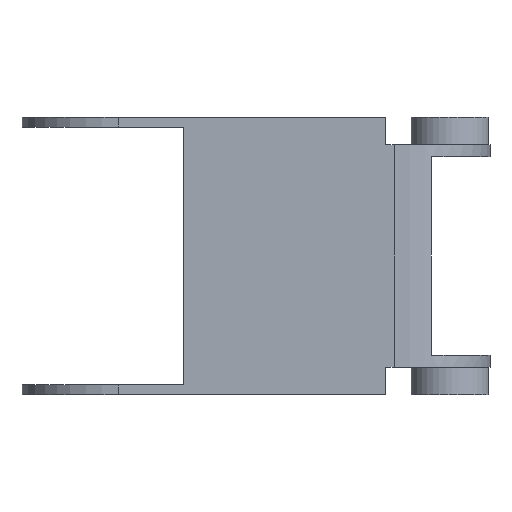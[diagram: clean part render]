
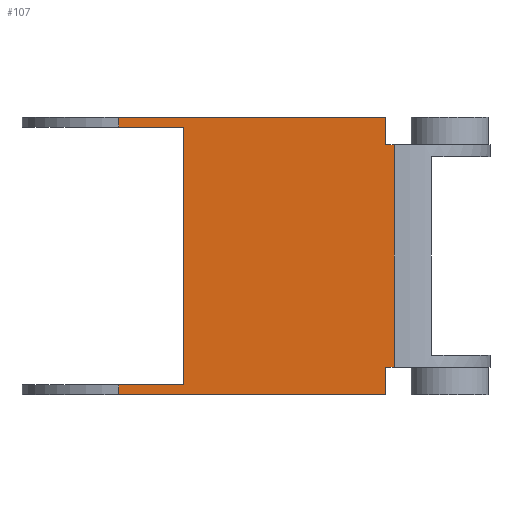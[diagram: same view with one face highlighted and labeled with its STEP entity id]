
A CAD part, front view. The second image highlights one B-rep face of the part: STEP entity #107.
In plain terms, the highlighted planar face has unit normal (0, -1, 0).
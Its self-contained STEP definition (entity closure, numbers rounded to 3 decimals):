
#107=ADVANCED_FACE('',(#511),#513,.T.);
#511=FACE_BOUND('',#512,.T.);
#512=EDGE_LOOP('',(#830,#831,#832,#833,#834,#835,#836,#837,#838,#839,#840,#841));
#513=PLANE('',#514);
#514=AXIS2_PLACEMENT_3D('',#515,#516,#517);
#515=CARTESIAN_POINT('',(0.,-9.753,-14.));
#516=DIRECTION('',(0.,-1.,0.));
#517=DIRECTION('',(1.,0.,0.));
#830=ORIENTED_EDGE('',*,*,#1097,.T.);
#831=ORIENTED_EDGE('',*,*,#1098,.T.);
#832=ORIENTED_EDGE('',*,*,#1099,.T.);
#833=ORIENTED_EDGE('',*,*,#1100,.T.);
#834=ORIENTED_EDGE('',*,*,#1101,.F.);
#835=ORIENTED_EDGE('',*,*,#1102,.F.);
#836=ORIENTED_EDGE('',*,*,#1103,.T.);
#837=ORIENTED_EDGE('',*,*,#1104,.T.);
#838=ORIENTED_EDGE('',*,*,#1105,.T.);
#839=ORIENTED_EDGE('',*,*,#1106,.F.);
#840=ORIENTED_EDGE('',*,*,#1092,.T.);
#841=ORIENTED_EDGE('',*,*,#1107,.T.);
#1092=EDGE_CURVE('',#1244,#1242,#1245,.T.);
#1097=EDGE_CURVE('',#1253,#1254,#1255,.F.);
#1098=EDGE_CURVE('',#1254,#1256,#1257,.T.);
#1099=EDGE_CURVE('',#1256,#1258,#1259,.T.);
#1100=EDGE_CURVE('',#1258,#1260,#1261,.T.);
#1101=EDGE_CURVE('',#1262,#1260,#1263,.T.);
#1102=EDGE_CURVE('',#1264,#1262,#1265,.T.);
#1103=EDGE_CURVE('',#1264,#1266,#1267,.T.);
#1104=EDGE_CURVE('',#1266,#1268,#1269,.T.);
#1105=EDGE_CURVE('',#1268,#1270,#1271,.F.);
#1106=EDGE_CURVE('',#1244,#1270,#1272,.T.);
#1107=EDGE_CURVE('',#1242,#1253,#1273,.F.);
#1242=VERTEX_POINT('',#1512);
#1244=VERTEX_POINT('',#1517);
#1245=LINE('',#1518,#1519);
#1253=VERTEX_POINT('',#1538);
#1254=VERTEX_POINT('',#1539);
#1255=LINE('',#1540,#1541);
#1256=VERTEX_POINT('',#1543);
#1257=LINE('',#1544,#1545);
#1258=VERTEX_POINT('',#1547);
#1259=LINE('',#1548,#1549);
#1260=VERTEX_POINT('',#1551);
#1261=LINE('',#1552,#1553);
#1262=VERTEX_POINT('',#1555);
#1263=LINE('',#1556,#1557);
#1264=VERTEX_POINT('',#1559);
#1265=LINE('',#1560,#1561);
#1266=VERTEX_POINT('',#1563);
#1267=LINE('',#1564,#1565);
#1268=VERTEX_POINT('',#1567);
#1269=LINE('',#1568,#1569);
#1270=VERTEX_POINT('',#1571);
#1271=LINE('',#1572,#1573);
#1272=LINE('',#1575,#1576);
#1273=LINE('',#1578,#1579);
#1512=CARTESIAN_POINT('',(26.946,-9.753,-14.));
#1517=CARTESIAN_POINT('',(0.,-9.753,-14.));
#1518=CARTESIAN_POINT('',(0.,-9.753,-14.));
#1519=VECTOR('',#1520,1.);
#1520=DIRECTION('',(1.,0.,0.));
#1538=CARTESIAN_POINT('',(26.946,-9.753,-11.25));
#1539=CARTESIAN_POINT('',(27.805,-9.753,-11.25));
#1540=CARTESIAN_POINT('',(27.805,-9.753,-11.25));
#1541=VECTOR('',#1542,1.);
#1542=DIRECTION('',(-1.,0.,0.));
#1543=CARTESIAN_POINT('',(27.805,-9.753,11.25));
#1544=CARTESIAN_POINT('',(27.805,-9.753,-11.25));
#1545=VECTOR('',#1546,1.);
#1546=DIRECTION('',(0.,0.,1.));
#1547=CARTESIAN_POINT('',(26.946,-9.753,11.25));
#1548=CARTESIAN_POINT('',(27.805,-9.753,11.25));
#1549=VECTOR('',#1550,1.);
#1550=DIRECTION('',(-1.,0.,0.));
#1551=CARTESIAN_POINT('',(26.946,-9.753,14.));
#1552=CARTESIAN_POINT('',(26.946,-9.753,11.25));
#1553=VECTOR('',#1554,1.);
#1554=DIRECTION('',(0.,0.,1.));
#1555=CARTESIAN_POINT('',(0.,-9.753,14.));
#1556=CARTESIAN_POINT('',(0.,-9.753,14.));
#1557=VECTOR('',#1558,1.);
#1558=DIRECTION('',(1.,0.,0.));
#1559=CARTESIAN_POINT('',(0.,-9.753,13.));
#1560=CARTESIAN_POINT('',(0.,-9.753,13.));
#1561=VECTOR('',#1562,1.);
#1562=DIRECTION('',(0.,0.,1.));
#1563=CARTESIAN_POINT('',(6.554,-9.753,13.));
#1564=CARTESIAN_POINT('',(0.,-9.753,13.));
#1565=VECTOR('',#1566,1.);
#1566=DIRECTION('',(1.,0.,0.));
#1567=CARTESIAN_POINT('',(6.554,-9.753,-13.));
#1568=CARTESIAN_POINT('',(6.554,-9.753,13.));
#1569=VECTOR('',#1570,1.);
#1570=DIRECTION('',(0.,0.,-1.));
#1571=CARTESIAN_POINT('',(0.,-9.753,-13.));
#1572=CARTESIAN_POINT('',(0.,-9.753,-13.));
#1573=VECTOR('',#1574,1.);
#1574=DIRECTION('',(1.,0.,0.));
#1575=CARTESIAN_POINT('',(0.,-9.753,-14.));
#1576=VECTOR('',#1577,1.);
#1577=DIRECTION('',(0.,0.,1.));
#1578=CARTESIAN_POINT('',(26.946,-9.753,-11.25));
#1579=VECTOR('',#1580,1.);
#1580=DIRECTION('',(0.,0.,-1.));
